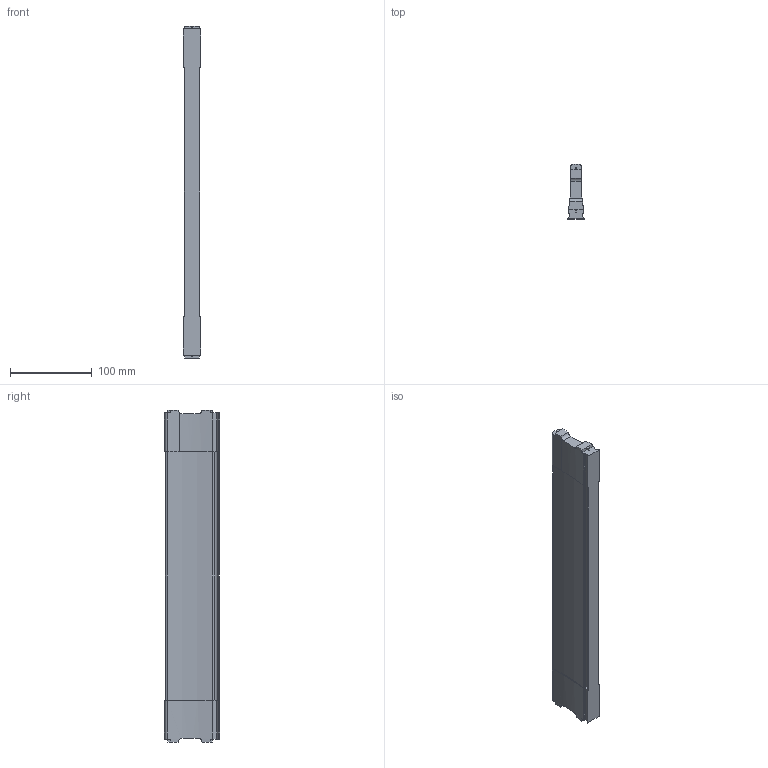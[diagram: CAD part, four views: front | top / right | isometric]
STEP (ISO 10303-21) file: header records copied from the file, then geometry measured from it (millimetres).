
FILE_DESCRIPTION (( 'STEP AP214' ), '1' );
FILE_NAME ('Traverse DWD NL430 Mass X398,4.step', '2010-09-21T13:16:38', ( 'grass' ), ( '' ), 'SwSTEP 2.0', 'SolidWorks 2010', '' );
FILE_SCHEMA (( 'AUTOMOTIVE_DESIGN' ));
Length unit declared in the file: millimetre
Products named in the file (1): Traverse DWD NL430 Mass X398,4
Bounding box: 21.4 x 67.5 x 407.4 mm (x, y, z)
Volume: 341934.3 mm3; surface area: 71385.7 mm2
Topology: 1 solids, 1 shells, 125 faces, 369 edges, 246 vertices
Faces by surface type: cylinder 68, plane 57
Entity records: 4377 total; most frequent: CARTESIAN_POINT 879, DIRECTION 753, ORIENTED_EDGE 738, EDGE_CURVE 369, AXIS2_PLACEMENT_3D 268, VERTEX_POINT 246, LINE 217, VECTOR 217
